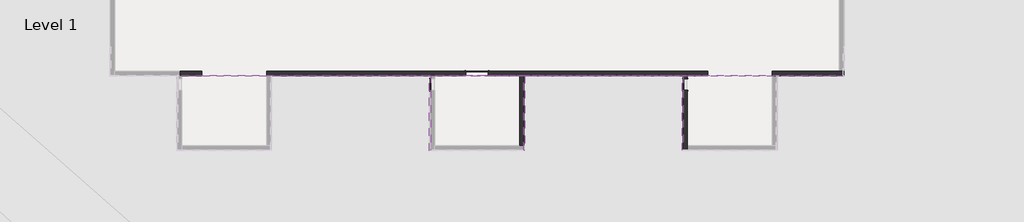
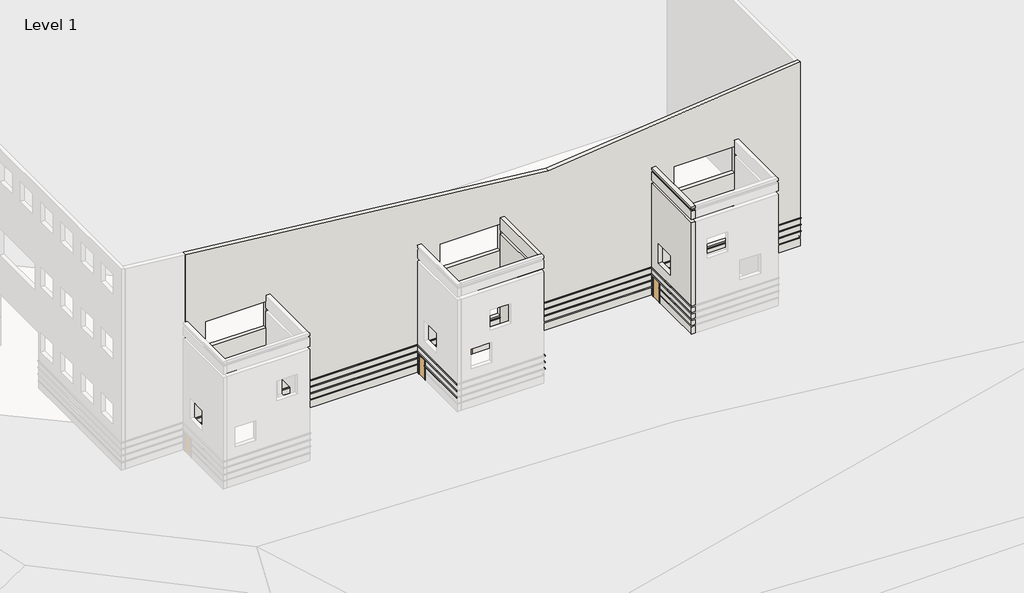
# One storey, part 2 of 6: 12 proxies, 3 doors, 3 walls.
"""IFC4 building model written with IfcOpenShell, lengths in millimetres."""

from ifc_helpers import new_model, si_unit, frame, origin, place, context, project, spatial, polyline, outline, extrude, faceted_brep, transform, mapped, element, save
from components import door_088b6e61, door_632be17d

model = new_model("IFC4")

# Units and contexts
model_context = context("Model", 3, world=origin())
ifc_project = project(units=[si_unit("LENGTHUNIT", "METRE", prefix="MILLI")], contexts=[model_context])

# Site, building, storey
site = spatial("IfcSite", under=ifc_project)
building = spatial("IfcBuilding", under=site)
storey = spatial("IfcBuildingStorey", under=building, Name="Level 1", Elevation=0.0)

# Proxies
placement = place(None, origin())
element("IfcBuildingElementProxy", 1, Name="Reveals", at=placement, inside=storey, context=model_context, shape_type="SweptSolid", body=[
    extrude(outline(polyline([(41938.2863427, -9404.5629393), (42030.3613427, -9496.6379393), (36124.8613427, -9496.6379393), (36124.8613427, -9404.5629393), (41938.2863427, -9404.5629393)])), frame((0.0, 0.0, 1625.6), z_axis=(0.0, 0.0, 1.0), x_axis=(1.0, 0.0, 0.0)), (0.0, 0.0, 1.0), 67.7333333),
    extrude(outline(polyline([(30814.6738427, -9404.5629393), (30814.6738427, -9496.6379393), (12831.4738427, -9496.6379393), (12831.4738427, -9404.5629393), (30814.6738427, -9404.5629393)])), frame((0.0, 0.0, 1625.6), z_axis=(0.0, 0.0, 1.0), x_axis=(1.0, 0.0, 0.0)), (0.0, 0.0, 1.0), 67.7333333),
    extrude(outline(polyline([(11002.6738427, -9404.5629393), (11002.6738427, -9496.6379393), (-5327.9386573, -9496.6379393), (-5327.9386573, -9404.5629393), (11002.6738427, -9404.5629393)])), frame((0.0, 0.0, 1625.6), z_axis=(0.0, 0.0, 1.0), x_axis=(1.0, 0.0, 0.0)), (0.0, 0.0, 1.0), 67.7333333),
    extrude(outline(polyline([(-10638.1261573, -9404.5629393), (-10638.1261573, -9496.6379393), (-12290.7136573, -9496.6379393), (-12290.7136573, -9404.5629393), (-10638.1261573, -9404.5629393)])), frame((0.0, 0.0, 1625.6), z_axis=(0.0, 0.0, 1.0), x_axis=(1.0, 0.0, 0.0)), (0.0, 0.0, 1.0), 67.7333333),
])
element("IfcBuildingElementProxy", 2, Name="Reveals", at=placement, inside=storey, context=model_context, shape_type="SweptSolid", body=[
    extrude(outline(polyline([(41938.2863427, -9404.5629393), (42030.3613427, -9496.6379393), (36124.8613427, -9496.6379393), (36124.8613427, -9404.5629393), (41938.2863427, -9404.5629393)])), frame((0.0, 0.0, 2235.2), z_axis=(0.0, 0.0, 1.0), x_axis=(1.0, 0.0, 0.0)), (0.0, 0.0, 1.0), 67.7333333),
    extrude(outline(polyline([(30814.6738427, -9404.5629393), (30814.6738427, -9496.6379393), (-5327.9386573, -9496.6379393), (-5327.9386573, -9404.5629393), (30814.6738427, -9404.5629393)])), frame((0.0, 0.0, 2235.2), z_axis=(0.0, 0.0, 1.0), x_axis=(1.0, 0.0, 0.0)), (0.0, 0.0, 1.0), 67.7333333),
    extrude(outline(polyline([(-10638.1261573, -9404.5629393), (-10638.1261573, -9496.6379393), (-12290.7136573, -9496.6379393), (-12290.7136573, -9404.5629393), (-10638.1261573, -9404.5629393)])), frame((0.0, 0.0, 2235.2), z_axis=(0.0, 0.0, 1.0), x_axis=(1.0, 0.0, 0.0)), (0.0, 0.0, 1.0), 67.7333333),
])
element("IfcBuildingElementProxy", 3, Name="Reveals", at=placement, inside=storey, context=model_context, shape_type="SweptSolid", body=[
    extrude(outline(polyline([(41938.2863427, -9404.5629393), (42030.3613427, -9496.6379393), (-12290.7136573, -9496.6379393), (-12290.7136573, -9404.5629393), (41938.2863427, -9404.5629393)])), frame((0.0, 0.0, 2844.8), z_axis=(0.0, 0.0, 1.0), x_axis=(1.0, 0.0, 0.0)), (0.0, 0.0, 1.0), 67.7333333),
])
element("IfcBuildingElementProxy", 4, Name="Reveals", at=placement, inside=storey, context=model_context, shape_type="SweptSolid", body=[
    extrude(outline(polyline([(8016.5863427, -10625.3504393), (8108.6613427, -10625.3504393), (8108.6613427, -15500.5629393), (8016.5863427, -15592.6379393), (8016.5863427, -10625.3504393)])), frame((0.0, 0.0, 1625.6), z_axis=(0.0, 0.0, 1.0), x_axis=(1.0, 0.0, 0.0)), (0.0, 0.0, 1.0), 67.7333333),
    extrude(outline(polyline([(8016.5863427, -9429.9629393), (8108.6613427, -9429.9629393), (8108.6613427, -9710.9504393), (8016.5863427, -9710.9504393), (8016.5863427, -9429.9629393)])), frame((0.0, 0.0, 1625.6), z_axis=(0.0, 0.0, 1.0), x_axis=(1.0, 0.0, 0.0)), (0.0, 0.0, 1.0), 67.7333333),
])
element("IfcBuildingElementProxy", 5, Name="Reveals", at=placement, inside=storey, context=model_context, shape_type="SweptSolid", body=[
    extrude(outline(polyline([(8016.5863427, -9429.9629393), (8108.6613427, -9429.9629393), (8108.6613427, -15500.5629393), (8016.5863427, -15592.6379393), (8016.5863427, -9429.9629393)])), frame((0.0, 0.0, 2235.2), z_axis=(0.0, 0.0, 1.0), x_axis=(1.0, 0.0, 0.0)), (0.0, 0.0, 1.0), 67.7333333),
])
element("IfcBuildingElementProxy", 6, Name="Reveals", at=placement, inside=storey, context=model_context, shape_type="SweptSolid", body=[
    extrude(outline(polyline([(8016.5863427, -9429.9629393), (8108.6613427, -9429.9629393), (8108.6613427, -15500.5629393), (8016.5863427, -15592.6379393), (8016.5863427, -9429.9629393)])), frame((0.0, 0.0, 2844.8), z_axis=(0.0, 0.0, 1.0), x_axis=(1.0, 0.0, 0.0)), (0.0, 0.0, 1.0), 67.7333333),
])
element("IfcBuildingElementProxy", 7, Name="Reveals", at=placement, inside=storey, context=model_context, shape_type="SweptSolid", body=[
    extrude(outline(polyline([(15817.5613427, -15592.6379393), (15725.4863427, -15500.5629393), (15725.4863427, -9429.9629393), (15817.5613427, -9429.9629393), (15817.5613427, -15592.6379393)])), frame((0.0, 0.0, 1625.6), z_axis=(0.0, 0.0, 1.0), x_axis=(1.0, 0.0, 0.0)), (0.0, 0.0, 1.0), 67.7333333),
])
element("IfcBuildingElementProxy", 8, Name="Reveals", at=placement, inside=storey, context=model_context, shape_type="SweptSolid", body=[
    extrude(outline(polyline([(15817.5613427, -15592.6379393), (15725.4863427, -15500.5629393), (15725.4863427, -9429.9629393), (15817.5613427, -9429.9629393), (15817.5613427, -15592.6379393)])), frame((0.0, 0.0, 2235.2), z_axis=(0.0, 0.0, 1.0), x_axis=(1.0, 0.0, 0.0)), (0.0, 0.0, 1.0), 67.7333333),
])
element("IfcBuildingElementProxy", 9, Name="Reveals", at=placement, inside=storey, context=model_context, shape_type="SweptSolid", body=[
    extrude(outline(polyline([(15817.5613427, -15592.6379393), (15725.4863427, -15500.5629393), (15725.4863427, -9429.9629393), (15817.5613427, -9429.9629393), (15817.5613427, -15592.6379393)])), frame((0.0, 0.0, 2844.8), z_axis=(0.0, 0.0, 1.0), x_axis=(1.0, 0.0, 0.0)), (0.0, 0.0, 1.0), 67.7333333),
])
element("IfcBuildingElementProxy", 10, Name="Reveals", at=placement, inside=storey, context=model_context, shape_type="SweptSolid", body=[
    extrude(outline(polyline([(28742.9863427, -10625.3504393), (28835.0613427, -10625.3504393), (28835.0613427, -15500.5629393), (28742.9863427, -15592.6379393), (28742.9863427, -10625.3504393)])), frame((0.0, 0.0, 1625.6), z_axis=(0.0, 0.0, 1.0), x_axis=(1.0, 0.0, 0.0)), (0.0, 0.0, 1.0), 67.7333333),
    extrude(outline(polyline([(28742.9863427, -9429.9629393), (28835.0613427, -9429.9629393), (28835.0613427, -9710.9504393), (28742.9863427, -9710.9504393), (28742.9863427, -9429.9629393)])), frame((0.0, 0.0, 1625.6), z_axis=(0.0, 0.0, 1.0), x_axis=(1.0, 0.0, 0.0)), (0.0, 0.0, 1.0), 67.7333333),
])
element("IfcBuildingElementProxy", 11, Name="Reveals", at=placement, inside=storey, context=model_context, shape_type="SweptSolid", body=[
    extrude(outline(polyline([(28742.9863427, -9429.9629393), (28835.0613427, -9429.9629393), (28835.0613427, -15500.5629393), (28742.9863427, -15592.6379393), (28742.9863427, -9429.9629393)])), frame((0.0, 0.0, 2235.2), z_axis=(0.0, 0.0, 1.0), x_axis=(1.0, 0.0, 0.0)), (0.0, 0.0, 1.0), 67.7333333),
])
element("IfcBuildingElementProxy", 12, Name="Reveals", at=placement, inside=storey, context=model_context, shape_type="SweptSolid", body=[
    extrude(outline(polyline([(28742.9863427, -9429.9629393), (28835.0613427, -9429.9629393), (28835.0613427, -15500.5629393), (28742.9863427, -15592.6379393), (28742.9863427, -9429.9629393)])), frame((0.0, 0.0, 2844.8), z_axis=(0.0, 0.0, 1.0), x_axis=(1.0, 0.0, 0.0)), (0.0, 0.0, 1.0), 67.7333333),
])

# Doors
door_shape = door_088b6e61(model_context)
element("IfcDoor", 13, ObjectType="Double-Flush : 72\" x 78\"", at=placement, inside=storey, context=model_context, shape_type="MappedRepresentation", body=[
    mapped(door_shape, transform((11917.0738427, -9253.7504393, 0.0), x_axis=(1.0, 0.0, 0.0), y_axis=(0.0, 1.0, 0.0), z_axis=(0.0, 0.0, 1.0))),
])
door_2_shape = door_632be17d(model_context)
element("IfcDoor", 14, ObjectType="Single-Flush : 36\" x 84\"", at=placement, inside=storey, context=model_context, shape_type="MappedRepresentation", body=[
    mapped(door_2_shape, transform((8259.4738427, -10168.1504393, 0.0), x_axis=(0.0, 1.0, 0.0), y_axis=(-1.0, 0.0, 0.0), z_axis=(0.0, 0.0, 1.0))),
])
element("IfcDoor", 15, ObjectType="Single-Flush : 36\" x 84\"", at=placement, inside=storey, context=model_context, shape_type="MappedRepresentation", body=[
    mapped(door_2_shape, transform((28985.8738427, -10168.1504393, 0.0), x_axis=(0.0, 1.0, 0.0), y_axis=(-1.0, 0.0, 0.0), z_axis=(0.0, 0.0, 1.0))),
])

# Walls
element("IfcWall", 16, ObjectType="Exterior - Brick and CMU on MTL. Stud", at=placement, inside=storey, context=model_context, shape_type="Brep", body=[
    faceted_brep([(-12466.9261573, -9077.5379393, 18496.9831828), (19653.3535836, -9077.5379393, 15121.0057441), (41611.2613427, -9077.5379393, 17428.8748471), (41963.6863427, -9077.5379393, 17465.9162072), (41963.6863427, -9077.5379393, 2912.5333333), (41938.2863427, -9077.5379393, 2912.5333333), (41938.2863427, -9077.5379393, 2844.8), (41963.6863427, -9077.5379393, 2844.8), (41963.6863427, -9077.5379393, 2302.9333333), (41938.2863427, -9077.5379393, 2302.9333333), (41938.2863427, -9077.5379393, 2235.2), (41963.6863427, -9077.5379393, 2235.2), (41963.6863427, -9077.5379393, 1693.3333333), (41938.2863427, -9077.5379393, 1693.3333333), (41938.2863427, -9077.5379393, 1625.6), (41963.6863427, -9077.5379393, 1625.6), (41963.6863427, -9077.5379393, 1085.85), (41871.6113427, -9077.5379393, 1085.85), (41871.6113427, -9077.5379393, 1016.0), (41963.6863427, -9077.5379393, 1016.0), (41963.6863427, -9077.5379393, 0.0), (41623.9613427, -9077.5379393, 0.0), (41623.9613427, -9077.5379393, 304.8), (41611.2613427, -9077.5379393, 304.8), (36124.8613427, -9077.5379393, 304.8), (36124.8613427, -9077.5379393, 2438.4), (30814.6738427, -9077.5379393, 2438.4), (30814.6738427, -9077.5379393, 304.8), (12831.4738427, -9077.5379393, 304.8), (12831.4738427, -9077.5379393, 1981.2), (11002.6738427, -9077.5379393, 1981.2), (11002.6738427, -9077.5379393, 304.8), (-5327.9386573, -9077.5379393, 304.8), (-5327.9386573, -9077.5379393, 2438.4), (-10638.1261573, -9077.5379393, 2438.4), (-10638.1261573, -9077.5379393, 304.8), (-12466.9261573, -9077.5379393, 304.8), (-5327.9386573, -9077.5379393, 5486.4), (-10638.1261573, -9077.5379393, 5486.4), (-10638.1261573, -9077.5379393, 3048.0), (-5327.9386573, -9077.5379393, 3048.0), (36124.8613427, -9077.5379393, 5486.4), (30814.6738427, -9077.5379393, 5486.4), (30814.6738427, -9077.5379393, 3048.0), (36124.8613427, -9077.5379393, 3048.0), (15398.4613427, -9077.5379393, 5486.4), (10088.2738427, -9077.5379393, 5486.4), (10088.2738427, -9077.5379393, 3048.0), (15398.4613427, -9077.5379393, 3048.0), (-5327.9386573, -9077.5379393, 11582.4), (-10638.1261573, -9077.5379393, 11582.4), (-10638.1261573, -9077.5379393, 9144.0), (-5327.9386573, -9077.5379393, 9144.0), (36124.8613427, -9077.5379393, 11582.4), (30814.6738427, -9077.5379393, 11582.4), (30814.6738427, -9077.5379393, 9144.0), (36124.8613427, -9077.5379393, 9144.0), (15398.4613427, -9077.5379393, 11582.4), (10088.2738427, -9077.5379393, 11582.4), (10088.2738427, -9077.5379393, 9144.0), (15398.4613427, -9077.5379393, 9144.0), (41963.6863427, -9429.9629393, 17465.9162072), (19653.3535836, -9429.9629393, 15121.0057441), (-12466.9261573, -9429.9629393, 18496.9831828), (-12466.9261573, -9429.9629393, 0.0), (-12290.7136573, -9429.9629393, 0.0), (-12290.7136573, -9429.9629393, 304.8), (-10638.1261573, -9429.9629393, 304.8), (-10638.1261573, -9429.9629393, 1016.0), (-12290.7136573, -9429.9629393, 1016.0), (-12290.7136573, -9429.9629393, 1085.85), (-10638.1261573, -9429.9629393, 1085.85), (-10638.1261573, -9429.9629393, 1625.6), (-12290.7136573, -9429.9629393, 1625.6), (-12290.7136573, -9429.9629393, 1693.3333333), (-10638.1261573, -9429.9629393, 1693.3333333), (-10638.1261573, -9429.9629393, 2235.2), (-12290.7136573, -9429.9629393, 2235.2), (-12290.7136573, -9429.9629393, 2302.9333333), (-10638.1261573, -9429.9629393, 2302.9333333), (-10638.1261573, -9429.9629393, 2438.4), (-5327.9386573, -9429.9629393, 2438.4), (-5327.9386573, -9429.9629393, 2302.9333333), (-4975.5136573, -9429.9629393, 2302.9333333), (8083.2613427, -9429.9629393, 2302.9333333), (8108.6613427, -9429.9629393, 2302.9333333), (15725.4863427, -9429.9629393, 2302.9333333), (15750.8863427, -9429.9629393, 2302.9333333), (28809.6613427, -9429.9629393, 2302.9333333), (28835.0613427, -9429.9629393, 2302.9333333), (30814.6738427, -9429.9629393, 2302.9333333), (30814.6738427, -9429.9629393, 2438.4), (36124.8613427, -9429.9629393, 2438.4), (36124.8613427, -9429.9629393, 2302.9333333), (36451.8863427, -9429.9629393, 2302.9333333), (36477.2863427, -9429.9629393, 2302.9333333), (41963.6863427, -9429.9629393, 2302.9333333), (41963.6863427, -9429.9629393, 2844.8), (36477.2863427, -9429.9629393, 2844.8), (36451.8863427, -9429.9629393, 2844.8), (28835.0613427, -9429.9629393, 2844.8), (28809.6613427, -9429.9629393, 2844.8), (15750.8863427, -9429.9629393, 2844.8), (15725.4863427, -9429.9629393, 2844.8), (8108.6613427, -9429.9629393, 2844.8), (8083.2613427, -9429.9629393, 2844.8), (-4975.5136573, -9429.9629393, 2844.8), (-5327.9386573, -9429.9629393, 2844.8), (-12290.7136573, -9429.9629393, 2844.8), (-12290.7136573, -9429.9629393, 2912.5333333), (-5327.9386573, -9429.9629393, 2912.5333333), (-4975.5136573, -9429.9629393, 2912.5333333), (8083.2613427, -9429.9629393, 2912.5333333), (8108.6613427, -9429.9629393, 2912.5333333), (15725.4863427, -9429.9629393, 2912.5333333), (15750.8863427, -9429.9629393, 2912.5333333), (28809.6613427, -9429.9629393, 2912.5333333), (28835.0613427, -9429.9629393, 2912.5333333), (36451.8863427, -9429.9629393, 2912.5333333), (36477.2863427, -9429.9629393, 2912.5333333), (41963.6863427, -9429.9629393, 2912.5333333), (-10638.1261573, -9429.9629393, 5486.4), (-5327.9386573, -9429.9629393, 5486.4), (-5327.9386573, -9429.9629393, 3048.0), (-10638.1261573, -9429.9629393, 3048.0), (30814.6738427, -9429.9629393, 5486.4), (36124.8613427, -9429.9629393, 5486.4), (36124.8613427, -9429.9629393, 3048.0), (30814.6738427, -9429.9629393, 3048.0), (10088.2738427, -9429.9629393, 5486.4), (15398.4613427, -9429.9629393, 5486.4), (15398.4613427, -9429.9629393, 3048.0), (10088.2738427, -9429.9629393, 3048.0), (-10638.1261573, -9429.9629393, 11582.4), (-5327.9386573, -9429.9629393, 11582.4), (-5327.9386573, -9429.9629393, 11017.5344776), (-5327.9386573, -9429.9629393, 10712.7344776), (-5327.9386573, -9429.9629393, 9144.0), (-10638.1261573, -9429.9629393, 9144.0), (30814.6738427, -9429.9629393, 11582.4), (36124.8613427, -9429.9629393, 11582.4), (36124.8613427, -9429.9629393, 11017.5344776), (36124.8613427, -9429.9629393, 10712.7344776), (36124.8613427, -9429.9629393, 9144.0), (30814.6738427, -9429.9629393, 9144.0), (10088.2738427, -9429.9629393, 11582.4), (15398.4613427, -9429.9629393, 11582.4), (15398.4613427, -9429.9629393, 11017.5344776), (15398.4613427, -9429.9629393, 10712.7344776), (15398.4613427, -9429.9629393, 9144.0), (10088.2738427, -9429.9629393, 9144.0), (36124.8613427, -9429.9629393, 0.0), (36477.2863427, -9429.9629393, 0.0), (41963.6863427, -9429.9629393, 0.0), (41963.6863427, -9429.9629393, 1016.0), (36477.2863427, -9429.9629393, 1016.0), (36385.2113427, -9429.9629393, 1016.0), (36124.8613427, -9429.9629393, 1016.0), (36124.8613427, -9429.9629393, 304.8), (11002.6738427, -9429.9629393, 1981.2), (12831.4738427, -9429.9629393, 1981.2), (12831.4738427, -9429.9629393, 1693.3333333), (15725.4863427, -9429.9629393, 1693.3333333), (15750.8863427, -9429.9629393, 1693.3333333), (28809.6613427, -9429.9629393, 1693.3333333), (28835.0613427, -9429.9629393, 1693.3333333), (30814.6738427, -9429.9629393, 1693.3333333), (30814.6738427, -9429.9629393, 2235.2), (28835.0613427, -9429.9629393, 2235.2), (28809.6613427, -9429.9629393, 2235.2), (15750.8863427, -9429.9629393, 2235.2), (15725.4863427, -9429.9629393, 2235.2), (8108.6613427, -9429.9629393, 2235.2), (8083.2613427, -9429.9629393, 2235.2), (-4975.5136573, -9429.9629393, 2235.2), (-5327.9386573, -9429.9629393, 2235.2), (-5327.9386573, -9429.9629393, 1693.3333333), (-4975.5136573, -9429.9629393, 1693.3333333), (8083.2613427, -9429.9629393, 1693.3333333), (8108.6613427, -9429.9629393, 1693.3333333), (11002.6738427, -9429.9629393, 1693.3333333), (36124.8613427, -9429.9629393, 1693.3333333), (36451.8863427, -9429.9629393, 1693.3333333), (36477.2863427, -9429.9629393, 1693.3333333), (41963.6863427, -9429.9629393, 1693.3333333), (41963.6863427, -9429.9629393, 2235.2), (36477.2863427, -9429.9629393, 2235.2), (36451.8863427, -9429.9629393, 2235.2), (36124.8613427, -9429.9629393, 2235.2), (41963.6863427, -9429.9629393, 1625.6), (36477.2863427, -9429.9629393, 1625.6), (36451.8863427, -9429.9629393, 1625.6), (36124.8613427, -9429.9629393, 1625.6), (36124.8613427, -9429.9629393, 1085.85), (36385.2113427, -9429.9629393, 1085.85), (36477.2863427, -9429.9629393, 1085.85), (41963.6863427, -9429.9629393, 1085.85), (11002.6738427, -9429.9629393, 1625.6), (8108.6613427, -9429.9629393, 1625.6), (8083.2613427, -9429.9629393, 1625.6), (-4975.5136573, -9429.9629393, 1625.6), (-5327.9386573, -9429.9629393, 1625.6), (-5327.9386573, -9429.9629393, 1085.85), (-5067.5886573, -9429.9629393, 1085.85), (-4975.5136573, -9429.9629393, 1085.85), (8083.2613427, -9429.9629393, 1085.85), (8175.3363427, -9429.9629393, 1085.85), (11002.6738427, -9429.9629393, 1085.85), (30814.6738427, -9429.9629393, 1625.6), (28835.0613427, -9429.9629393, 1625.6), (28809.6613427, -9429.9629393, 1625.6), (15750.8863427, -9429.9629393, 1625.6), (15725.4863427, -9429.9629393, 1625.6), (12831.4738427, -9429.9629393, 1625.6), (12831.4738427, -9429.9629393, 1085.85), (15658.8113427, -9429.9629393, 1085.85), (15750.8863427, -9429.9629393, 1085.85), (28809.6613427, -9429.9629393, 1085.85), (28901.7363427, -9429.9629393, 1085.85), (30814.6738427, -9429.9629393, 1085.85), (11002.6738427, -9429.9629393, 1016.0), (8175.3363427, -9429.9629393, 1016.0), (8083.2613427, -9429.9629393, 1016.0), (-4975.5136573, -9429.9629393, 1016.0), (-5327.9386573, -9429.9629393, 1016.0), (-5327.9386573, -9429.9629393, 304.8), (-5327.9386573, -9429.9629393, 0.0), (-4975.5136573, -9429.9629393, 0.0), (8083.2613427, -9429.9629393, 0.0), (8435.6863427, -9429.9629393, 0.0), (8435.6863427, -9429.9629393, 304.8), (11002.6738427, -9429.9629393, 304.8), (30814.6738427, -9429.9629393, 1016.0), (28901.7363427, -9429.9629393, 1016.0), (28809.6613427, -9429.9629393, 1016.0), (15750.8863427, -9429.9629393, 1016.0), (15658.8113427, -9429.9629393, 1016.0), (12831.4738427, -9429.9629393, 1016.0), (12831.4738427, -9429.9629393, 304.8), (15398.4613427, -9429.9629393, 304.8), (15398.4613427, -9429.9629393, 0.0), (15750.8863427, -9429.9629393, 0.0), (28809.6613427, -9429.9629393, 0.0), (29162.0863427, -9429.9629393, 0.0), (29162.0863427, -9429.9629393, 304.8), (30814.6738427, -9429.9629393, 304.8), (41963.6863427, -9337.8879393, 0.0), (36124.8613427, -9337.8879393, 0.0), (36124.8613427, -9090.2379393, 0.0), (41623.9613427, -9090.2379393, 0.0), (-12466.9261573, -9337.8879393, 0.0), (-12290.7136573, -9337.8879393, 0.0), (-12466.9261573, -9090.2379393, 304.8), (-12466.9261573, -9090.2379393, 0.0), (-10638.1261573, -9404.5629393, 2302.9333333), (-10638.1261573, -9404.5629393, 2235.2), (-10638.1261573, -9404.5629393, 1693.3333333), (-10638.1261573, -9404.5629393, 1625.6), (-10638.1261573, -9337.8879393, 1085.85), (-10638.1261573, -9337.8879393, 1016.0), (-5327.9386573, -9337.8879393, 0.0), (-5327.9386573, -9090.2379393, 0.0), (8435.6863427, -9090.2379393, 0.0), (8435.6863427, -9337.8879393, 0.0), (29162.0863427, -9337.8879393, 0.0), (15398.4613427, -9337.8879393, 0.0), (15398.4613427, -9090.2379393, 0.0), (29162.0863427, -9090.2379393, 0.0), (-12290.7136573, -9090.2379393, 0.0), (36124.8613427, -9090.2379393, 304.8), (36124.8613427, -9337.8879393, 1016.0), (36124.8613427, -9337.8879393, 1085.85), (36124.8613427, -9404.5629393, 1625.6), (36124.8613427, -9404.5629393, 1693.3333333), (36124.8613427, -9404.5629393, 2235.2), (36124.8613427, -9404.5629393, 2302.9333333), (-5327.9386573, -9090.2379393, 304.8), (-5327.9386573, -9337.8879393, 1016.0), (-5327.9386573, -9337.8879393, 1085.85), (-5327.9386573, -9404.5629393, 1625.6), (-5327.9386573, -9404.5629393, 1693.3333333), (-5327.9386573, -9404.5629393, 2235.2), (-5327.9386573, -9404.5629393, 2302.9333333), (30814.6738427, -9404.5629393, 2302.9333333), (30814.6738427, -9404.5629393, 2235.2), (30814.6738427, -9404.5629393, 1693.3333333), (30814.6738427, -9404.5629393, 1625.6), (30814.6738427, -9337.8879393, 1085.85), (30814.6738427, -9337.8879393, 1016.0), (12831.4738427, -9337.8879393, 1016.0), (12831.4738427, -9337.8879393, 1085.85), (12831.4738427, -9404.5629393, 1625.6), (12831.4738427, -9404.5629393, 1693.3333333), (11002.6738427, -9404.5629393, 1693.3333333), (11002.6738427, -9404.5629393, 1625.6), (11002.6738427, -9337.8879393, 1085.85), (11002.6738427, -9337.8879393, 1016.0), (41938.2863427, -9404.5629393, 1693.3333333), (41938.2863427, -9404.5629393, 1625.6), (-12290.7136573, -9404.5629393, 1625.6), (-12290.7136573, -9404.5629393, 1693.3333333), (41938.2863427, -9404.5629393, 2302.9333333), (41938.2863427, -9404.5629393, 2235.2), (-12290.7136573, -9404.5629393, 2235.2), (-12290.7136573, -9404.5629393, 2302.9333333), (-12290.7136573, -9404.5629393, 2912.5333333), (41938.2863427, -9404.5629393, 2912.5333333), (41938.2863427, -9404.5629393, 2844.8), (-12290.7136573, -9404.5629393, 2844.8), (41871.6113427, -9337.8879393, 1085.85), (41871.6113427, -9337.8879393, 1016.0), (-12290.7136573, -9337.8879393, 1016.0), (-12290.7136573, -9337.8879393, 1085.85), (8435.6863427, -9090.2379393, 304.8), (29162.0863427, -9090.2379393, 304.8), (15398.4613427, -9090.2379393, 304.8), (41623.9613427, -9090.2379393, 304.8), (-12290.7136573, -9090.2379393, 304.8)], [[[0, 1, 2, 3, 4, 5, 6, 7, 8, 9, 10, 11, 12, 13, 14, 15, 16, 17, 18, 19, 20, 21, 22, 23, 24, 25, 26, 27, 28, 29, 30, 31, 32, 33, 34, 35, 36], [37, 38, 39, 40], [41, 42, 43, 44], [45, 46, 47, 48], [49, 50, 51, 52], [53, 54, 55, 56], [57, 58, 59, 60]], [[61, 62, 63, 64, 65, 66, 67, 68, 69, 70, 71, 72, 73, 74, 75, 76, 77, 78, 79, 80, 81, 82, 83, 84, 85, 86, 87, 88, 89, 90, 91, 92, 93, 94, 95, 96, 97, 98, 99, 100, 101, 102, 103, 104, 105, 106, 107, 108, 109, 110, 111, 112, 113, 114, 115, 116, 117, 118, 119, 120], [121, 122, 123, 124], [125, 126, 127, 128], [129, 130, 131, 132], [133, 134, 135, 136, 137, 138], [139, 140, 141, 142, 143, 144], [145, 146, 147, 148, 149, 150]], [[151, 152, 153, 154, 155, 156, 157, 158]], [[159, 160, 161, 162, 163, 164, 165, 166, 167, 168, 169, 170, 171, 172, 173, 174, 175, 176, 177, 178, 179, 180]], [[181, 182, 183, 184, 185, 186, 187, 188]], [[189, 190, 191, 192, 193, 194, 195, 196]], [[197, 198, 199, 200, 201, 202, 203, 204, 205, 206, 207]], [[208, 209, 210, 211, 212, 213, 214, 215, 216, 217, 218, 219]], [[220, 221, 222, 223, 224, 225, 226, 227, 228, 229, 230, 231]], [[232, 233, 234, 235, 236, 237, 238, 239, 240, 241, 242, 243, 244, 245]], [[20, 246, 247, 248, 249, 21]], [[3, 61, 120, 4]], [[246, 20, 19, 154, 153]], [[184, 12, 11, 185]], [[15, 189, 196, 16]], [[96, 8, 7, 97]], [[64, 250, 251, 65]], [[61, 3, 2, 1, 62]], [[0, 63, 62, 1]], [[63, 0, 36, 252, 253, 250, 64]], [[80, 34, 33, 81]], [[34, 80, 79, 254, 255, 76, 75, 256, 257, 72, 71, 258, 259, 68, 67, 35]], [[260, 261, 262, 263]], [[264, 265, 266, 267]], [[226, 260, 263, 229, 228, 227]], [[243, 242, 241, 240, 265, 264]], [[251, 250, 253, 268]], [[246, 153, 152, 151, 247]], [[25, 92, 91, 26]], [[92, 25, 24, 269, 248, 247, 151, 158, 157, 270, 271, 193, 192, 272, 273, 181, 188, 274, 275, 93]], [[37, 122, 121, 38]], [[39, 124, 123, 40]], [[122, 37, 40, 123]], [[38, 121, 124, 39]], [[41, 126, 125, 42]], [[43, 128, 127, 44]], [[126, 41, 44, 127]], [[42, 125, 128, 43]], [[45, 130, 129, 46]], [[47, 132, 131, 48]], [[130, 45, 48, 131]], [[46, 129, 132, 47]], [[49, 134, 133, 50]], [[51, 138, 137, 52]], [[134, 49, 52, 137, 136, 135]], [[50, 133, 138, 51]], [[53, 140, 139, 54]], [[55, 144, 143, 56]], [[140, 53, 56, 143, 142, 141]], [[54, 139, 144, 55]], [[57, 146, 145, 58]], [[59, 150, 149, 60]], [[146, 57, 60, 149, 148, 147]], [[58, 145, 150, 59]], [[81, 33, 32, 276, 261, 260, 226, 225, 224, 277, 278, 202, 201, 279, 280, 176, 175, 281, 282, 82]], [[26, 91, 90, 283, 284, 167, 166, 285, 286, 208, 219, 287, 288, 232, 245, 27]], [[160, 29, 28, 238, 237, 289, 290, 214, 213, 291, 292, 161]], [[29, 160, 159, 30]], [[30, 159, 180, 293, 294, 197, 207, 295, 296, 220, 231, 31]], [[273, 297, 13, 12, 184, 183, 182, 181]], [[298, 272, 192, 191, 190, 189, 15, 14]], [[297, 298, 14, 13]], [[297, 273, 272, 298]], [[292, 285, 166, 165, 164, 163, 162, 161]], [[286, 291, 213, 212, 211, 210, 209, 208]], [[285, 292, 291, 286]], [[280, 293, 180, 179, 178, 177, 176]], [[294, 279, 201, 200, 199, 198, 197]], [[293, 280, 279, 294]], [[299, 300, 74, 73]], [[300, 256, 75, 74]], [[257, 299, 73, 72]], [[300, 299, 257, 256]], [[275, 301, 9, 8, 96, 95, 94, 93]], [[302, 274, 188, 187, 186, 185, 11, 10]], [[301, 302, 10, 9]], [[301, 275, 274, 302]], [[282, 283, 90, 89, 88, 87, 86, 85, 84, 83, 82]], [[284, 281, 175, 174, 173, 172, 171, 170, 169, 168, 167]], [[283, 282, 281, 284]], [[303, 304, 78, 77]], [[304, 254, 79, 78]], [[255, 303, 77, 76]], [[304, 303, 255, 254]], [[305, 306, 5, 4, 120, 119, 118, 117, 116, 115, 114, 113, 112, 111, 110, 109]], [[307, 308, 108, 107, 106, 105, 104, 103, 102, 101, 100, 99, 98, 97, 7, 6]], [[306, 307, 6, 5]], [[308, 305, 109, 108]], [[306, 305, 308, 307]], [[271, 309, 17, 16, 196, 195, 194, 193]], [[310, 270, 157, 156, 155, 154, 19, 18]], [[309, 310, 18, 17]], [[309, 271, 270, 310]], [[290, 287, 219, 218, 217, 216, 215, 214]], [[288, 289, 237, 236, 235, 234, 233, 232]], [[287, 290, 289, 288]], [[278, 295, 207, 206, 205, 204, 203, 202]], [[296, 277, 224, 223, 222, 221, 220]], [[295, 278, 277, 296]], [[311, 312, 70, 69]], [[70, 312, 258, 71]], [[259, 311, 69, 68]], [[312, 311, 259, 258]], [[313, 276, 32, 31, 231, 230]], [[314, 315, 239, 238, 28, 27, 245, 244]], [[316, 269, 24, 23, 22]], [[66, 317, 252, 36, 35, 67]], [[249, 316, 22, 21]], [[269, 316, 249, 248]], [[267, 314, 244, 243, 264]], [[315, 314, 267, 266]], [[315, 266, 265, 240, 239]], [[262, 313, 230, 229, 263]], [[276, 313, 262, 261]], [[268, 317, 66, 65, 251]], [[317, 268, 253, 252]]]),
])
element("IfcWall", 17, ObjectType="Exterior - Brick and CMU on MTL. Stud", at=placement, inside=storey, context=model_context, shape_type="Brep", body=[
    faceted_brep([(15750.8863427, -9429.9629393, 12192.0), (15750.8863427, -15173.5379393, 12192.0), (15750.8863427, -15173.5379393, 11988.8), (15750.8863427, -9429.9629393, 11988.8), (15750.8863427, -9429.9629393, 11785.6), (15750.8863427, -15173.5379393, 11785.6), (15750.8863427, -15173.5379393, 11017.5344776), (15750.8863427, -9429.9629393, 11017.5344776), (15398.4613427, -15173.5379393, 12192.0), (15398.4613427, -9429.9629393, 12192.0), (15398.4613427, -9429.9629393, 11582.4), (15398.4613427, -9429.9629393, 11017.5344776), (15398.4613427, -15173.5379393, 11017.5344776), (15658.8113427, -9429.9629393, 11988.8), (15658.8113427, -9429.9629393, 11785.6), (15658.8113427, -15173.5379393, 11785.6), (15658.8113427, -15173.5379393, 11988.8)], [[[0, 1, 2, 3]], [[4, 5, 6, 7]], [[8, 9, 10, 11, 12]], [[1, 0, 9, 8]], [[9, 0, 3, 13, 14, 4, 7, 11, 10]], [[1, 8, 12, 6, 5, 15, 16, 2]], [[16, 13, 3, 2]], [[14, 15, 5, 4]], [[15, 14, 13, 16]], [[7, 6, 12, 11]]]),
    faceted_brep([(15750.8863427, -15173.5379393, 0.0), (15750.8863427, -9429.9629393, 0.0), (15750.8863427, -9429.9629393, 1016.0), (15750.8863427, -15173.5379393, 1016.0), (15750.8863427, -9429.9629393, 1625.6), (15750.8863427, -15173.5379393, 1625.6), (15750.8863427, -15173.5379393, 1085.85), (15750.8863427, -9429.9629393, 1085.85), (15750.8863427, -15173.5379393, 1693.3333333), (15750.8863427, -9429.9629393, 1693.3333333), (15750.8863427, -9429.9629393, 2235.2), (15750.8863427, -15173.5379393, 2235.2), (15750.8863427, -15173.5379393, 2302.9333333), (15750.8863427, -9429.9629393, 2302.9333333), (15750.8863427, -9429.9629393, 2844.8), (15750.8863427, -15173.5379393, 2844.8), (15750.8863427, -15173.5379393, 2912.5333333), (15750.8863427, -9429.9629393, 2912.5333333), (15750.8863427, -9429.9629393, 10712.7344776), (15750.8863427, -15173.5379393, 10712.7344776), (15750.8863427, -11235.8448697, 5791.2), (15750.8863427, -11235.8448697, 3962.4), (15750.8863427, -13064.6448697, 3962.4), (15750.8863427, -13064.6448697, 5791.2), (15398.4613427, -9429.9629393, 0.0), (15398.4613427, -15173.5379393, 0.0), (15398.4613427, -15173.5379393, 10712.7344776), (15398.4613427, -9429.9629393, 10712.7344776), (15398.4613427, -9429.9629393, 9144.0), (15398.4613427, -9429.9629393, 5486.4), (15398.4613427, -9429.9629393, 3048.0), (15398.4613427, -9429.9629393, 304.8), (15398.4613427, -11235.8448697, 3962.4), (15398.4613427, -11235.8448697, 5791.2), (15398.4613427, -13064.6448697, 5791.2), (15398.4613427, -13064.6448697, 3962.4), (15658.8113427, -9429.9629393, 0.0), (15658.8113427, -15173.5379393, 0.0), (15725.4863427, -9429.9629393, 2912.5333333), (15725.4863427, -9429.9629393, 2844.8), (15725.4863427, -9429.9629393, 2302.9333333), (15725.4863427, -9429.9629393, 2235.2), (15725.4863427, -9429.9629393, 1693.3333333), (15725.4863427, -9429.9629393, 1625.6), (15658.8113427, -9429.9629393, 1085.85), (15658.8113427, -9429.9629393, 1016.0), (15658.8113427, -15173.5379393, 1016.0), (15658.8113427, -15173.5379393, 1085.85), (15725.4863427, -15173.5379393, 1625.6), (15725.4863427, -15173.5379393, 1693.3333333), (15725.4863427, -15173.5379393, 2235.2), (15725.4863427, -15173.5379393, 2302.9333333), (15725.4863427, -15173.5379393, 2844.8), (15725.4863427, -15173.5379393, 2912.5333333)], [[[0, 1, 2, 3]], [[4, 5, 6, 7]], [[8, 9, 10, 11]], [[12, 13, 14, 15]], [[16, 17, 18, 19], [20, 21, 22, 23]], [[24, 25, 26, 27, 28, 29, 30, 31], [32, 33, 34, 35]], [[25, 24, 36, 37]], [[1, 0, 37, 36]], [[36, 24, 31, 30, 29, 28, 27, 18, 17, 38, 39, 14, 13, 40, 41, 10, 9, 42, 43, 4, 7, 44, 45, 2, 1]], [[25, 37, 0, 3, 46, 47, 6, 5, 48, 49, 8, 11, 50, 51, 12, 15, 52, 53, 16, 19, 26]], [[21, 20, 33, 32]], [[22, 21, 32, 35]], [[23, 22, 35, 34]], [[20, 23, 34, 33]], [[43, 48, 5, 4]], [[49, 42, 9, 8]], [[48, 43, 42, 49]], [[41, 50, 11, 10]], [[51, 40, 13, 12]], [[50, 41, 40, 51]], [[39, 52, 15, 14]], [[53, 38, 17, 16]], [[52, 39, 38, 53]], [[45, 46, 3, 2]], [[47, 44, 7, 6]], [[46, 45, 44, 47]], [[19, 18, 27, 26]]]),
])
element("IfcWall", 18, ObjectType="Exterior - Brick and CMU on MTL. Stud", at=placement, inside=storey, context=model_context, shape_type="Brep", body=[
    faceted_brep([(28809.6613427, -15525.9629393, 12192.0), (28809.6613427, -9429.9629393, 12192.0), (28809.6613427, -9429.9629393, 11988.8), (28809.6613427, -15525.9629393, 11988.8), (28809.6613427, -15525.9629393, 11785.6), (28809.6613427, -9429.9629393, 11785.6), (28809.6613427, -9429.9629393, 11017.5344776), (28809.6613427, -15525.9629393, 11017.5344776), (29162.0863427, -9429.9629393, 12192.0), (29162.0863427, -15173.5379393, 12192.0), (29162.0863427, -15525.9629393, 12192.0), (29162.0863427, -15525.9629393, 11988.8), (29162.0863427, -15433.8879393, 11988.8), (29162.0863427, -15433.8879393, 11785.6), (29162.0863427, -15525.9629393, 11785.6), (29162.0863427, -15525.9629393, 11017.5344776), (29162.0863427, -15173.5379393, 11017.5344776), (29162.0863427, -9429.9629393, 11017.5344776), (28901.7363427, -9429.9629393, 11785.6), (28901.7363427, -9429.9629393, 11988.8), (28901.7363427, -15433.8879393, 11988.8), (28901.7363427, -15433.8879393, 11785.6)], [[[0, 1, 2, 3]], [[4, 5, 6, 7]], [[8, 9, 10, 11, 12, 13, 14, 15, 16, 17]], [[1, 0, 10, 9, 8]], [[10, 0, 3, 11]], [[14, 4, 7, 15]], [[1, 8, 17, 6, 5, 18, 19, 2]], [[19, 20, 12, 11, 3, 2]], [[20, 19, 18, 21]], [[21, 18, 5, 4, 14, 13]], [[20, 21, 13, 12]], [[7, 6, 17, 16, 15]]]),
    faceted_brep([(28809.6613427, -9429.9629393, 0.0), (28809.6613427, -9710.9504393, 0.0), (28809.6613427, -9710.9504393, 1016.0), (28809.6613427, -9429.9629393, 1016.0), (28809.6613427, -10625.3504393, 0.0), (28809.6613427, -15525.9629393, 0.0), (28809.6613427, -15525.9629393, 1016.0), (28809.6613427, -10625.3504393, 1016.0), (28809.6613427, -9710.9504393, 2133.6), (28809.6613427, -10625.3504393, 2133.6), (28809.6613427, -10625.3504393, 1693.3333333), (28809.6613427, -15525.9629393, 1693.3333333), (28809.6613427, -15525.9629393, 2235.2), (28809.6613427, -9429.9629393, 2235.2), (28809.6613427, -9429.9629393, 1693.3333333), (28809.6613427, -9710.9504393, 1693.3333333), (28809.6613427, -9429.9629393, 1085.85), (28809.6613427, -9710.9504393, 1085.85), (28809.6613427, -9710.9504393, 1625.6), (28809.6613427, -9429.9629393, 1625.6), (28809.6613427, -10625.3504393, 1085.85), (28809.6613427, -15525.9629393, 1085.85), (28809.6613427, -15525.9629393, 1625.6), (28809.6613427, -10625.3504393, 1625.6), (28809.6613427, -15525.9629393, 2844.8), (28809.6613427, -9429.9629393, 2844.8), (28809.6613427, -9429.9629393, 2302.9333333), (28809.6613427, -15525.9629393, 2302.9333333), (28809.6613427, -9429.9629393, 2912.5333333), (28809.6613427, -15525.9629393, 2912.5333333), (28809.6613427, -15525.9629393, 10712.7344776), (28809.6613427, -9429.9629393, 10712.7344776), (28809.6613427, -10472.9504393, 3875.2335849), (28809.6613427, -10472.9504393, 5704.0335849), (28809.6613427, -12301.7504393, 5704.0335849), (28809.6613427, -12301.7504393, 3875.2335849), (29162.0863427, -9710.9504393, 0.0), (29162.0863427, -9429.9629393, 0.0), (29162.0863427, -9429.9629393, 304.8), (29162.0863427, -9429.9629393, 10712.7344776), (29162.0863427, -15173.5379393, 10712.7344776), (29162.0863427, -15525.9629393, 10712.7344776), (29162.0863427, -15525.9629393, 2912.5333333), (29162.0863427, -15500.5629393, 2912.5333333), (29162.0863427, -15500.5629393, 2844.8), (29162.0863427, -15525.9629393, 2844.8), (29162.0863427, -15525.9629393, 2302.9333333), (29162.0863427, -15500.5629393, 2302.9333333), (29162.0863427, -15500.5629393, 2235.2), (29162.0863427, -15525.9629393, 2235.2), (29162.0863427, -15525.9629393, 1693.3333333), (29162.0863427, -15500.5629393, 1693.3333333), (29162.0863427, -15500.5629393, 1625.6), (29162.0863427, -15525.9629393, 1625.6), (29162.0863427, -15525.9629393, 1085.85), (29162.0863427, -15433.8879393, 1085.85), (29162.0863427, -15433.8879393, 1016.0), (29162.0863427, -15525.9629393, 1016.0), (29162.0863427, -15525.9629393, 0.0), (29162.0863427, -15173.5379393, 0.0), (29162.0863427, -10625.3504393, 0.0), (29162.0863427, -10625.3504393, 2133.6), (29162.0863427, -9710.9504393, 2133.6), (29162.0863427, -10472.9504393, 5704.0335849), (29162.0863427, -10472.9504393, 3875.2335849), (29162.0863427, -12301.7504393, 3875.2335849), (29162.0863427, -12301.7504393, 5704.0335849), (28901.7363427, -15525.9629393, 0.0), (28901.7363427, -10625.3504393, 0.0), (28901.7363427, -9429.9629393, 0.0), (28901.7363427, -9710.9504393, 0.0), (28901.7363427, -9429.9629393, 1016.0), (28901.7363427, -9429.9629393, 1085.85), (28835.0613427, -9429.9629393, 1625.6), (28835.0613427, -9429.9629393, 1693.3333333), (28835.0613427, -9429.9629393, 2235.2), (28835.0613427, -9429.9629393, 2302.9333333), (28835.0613427, -9429.9629393, 2844.8), (28835.0613427, -9429.9629393, 2912.5333333), (28835.0613427, -9710.9504393, 1693.3333333), (28835.0613427, -9710.9504393, 1625.6), (28901.7363427, -9710.9504393, 1085.85), (28901.7363427, -9710.9504393, 1016.0), (28901.7363427, -10625.3504393, 1016.0), (28901.7363427, -10625.3504393, 1085.85), (28835.0613427, -10625.3504393, 1625.6), (28835.0613427, -10625.3504393, 1693.3333333), (28901.7363427, -15433.8879393, 1085.85), (28901.7363427, -15433.8879393, 1016.0), (28835.0613427, -15500.5629393, 2912.5333333), (28835.0613427, -15500.5629393, 2844.8), (28835.0613427, -15500.5629393, 2302.9333333), (28835.0613427, -15500.5629393, 2235.2), (28835.0613427, -15500.5629393, 1693.3333333), (28835.0613427, -15500.5629393, 1625.6)], [[[0, 1, 2, 3]], [[4, 5, 6, 7]], [[8, 9, 10, 11, 12, 13, 14, 15]], [[16, 17, 18, 19]], [[20, 21, 22, 23]], [[24, 25, 26, 27]], [[28, 29, 30, 31], [32, 33, 34, 35]], [[36, 37, 38, 39, 40, 41, 42, 43, 44, 45, 46, 47, 48, 49, 50, 51, 52, 53, 54, 55, 56, 57, 58, 59, 60, 61, 62], [63, 64, 65, 66]], [[58, 67, 68, 60, 59]], [[69, 37, 36, 70]], [[0, 69, 70, 1]], [[67, 5, 4, 68]], [[67, 58, 57, 6, 5]], [[21, 54, 53, 22]], [[45, 24, 27, 46]], [[29, 42, 41, 30]], [[49, 12, 11, 50]], [[37, 69, 0, 3, 71, 72, 16, 19, 73, 74, 14, 13, 75, 76, 26, 25, 77, 78, 28, 31, 39, 38]], [[62, 8, 15, 79, 80, 18, 17, 81, 82, 2, 1, 70, 36]], [[8, 62, 61, 9]], [[9, 61, 60, 68, 4, 7, 83, 84, 20, 23, 85, 86, 10]], [[64, 63, 33, 32]], [[65, 64, 32, 35]], [[66, 65, 35, 34]], [[63, 66, 34, 33]], [[87, 84, 83, 88]], [[88, 83, 7, 6, 57, 56]], [[84, 87, 55, 54, 21, 20]], [[87, 88, 56, 55]], [[81, 72, 71, 82]], [[82, 71, 3, 2]], [[72, 81, 17, 16]], [[89, 78, 77, 90]], [[90, 77, 25, 24, 45, 44]], [[78, 89, 43, 42, 29, 28]], [[89, 90, 44, 43]], [[91, 76, 75, 92]], [[92, 75, 13, 12, 49, 48]], [[76, 91, 47, 46, 27, 26]], [[91, 92, 48, 47]], [[93, 86, 85, 94]], [[94, 85, 23, 22, 53, 52]], [[86, 93, 51, 50, 11, 10]], [[93, 94, 52, 51]], [[79, 74, 73, 80]], [[80, 73, 19, 18]], [[74, 79, 15, 14]], [[31, 30, 41, 40, 39]]]),
])

save(model, "model.ifc")
